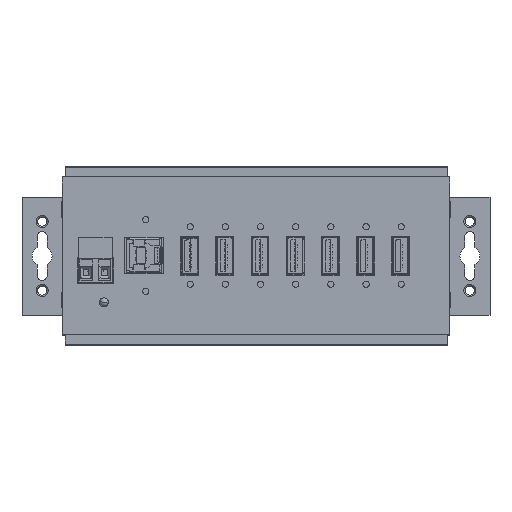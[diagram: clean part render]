
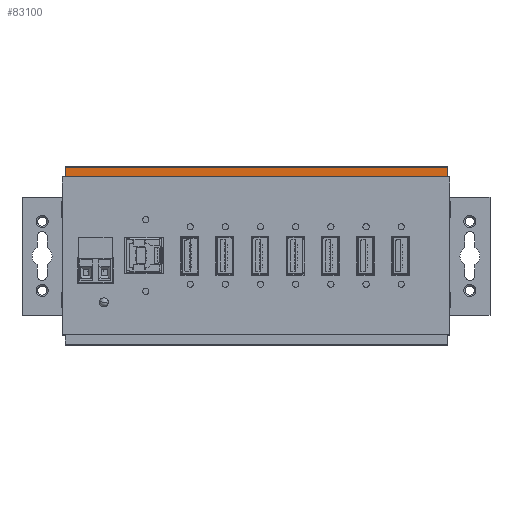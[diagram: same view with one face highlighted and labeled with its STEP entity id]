
A CAD part, top view. The second image highlights one B-rep face of the part: STEP entity #83100.
In plain terms, the highlighted planar face has unit normal (0, 0, 1).
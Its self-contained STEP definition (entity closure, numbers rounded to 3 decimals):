
#17877 = PLANE('',#17878);
#17878 = AXIS2_PLACEMENT_3D('',#17879,#17880,#17881);
#17879 = CARTESIAN_POINT('',(0.,54.,0.));
#17880 = DIRECTION('',(0.,1.,0.));
#17881 = DIRECTION('',(0.,0.,1.));
#44596 = VERTEX_POINT('',#44597);
#44597 = CARTESIAN_POINT('',(148.1,54.,30.));
#44611 = PLANE('',#44612);
#44612 = AXIS2_PLACEMENT_3D('',#44613,#44614,#44615);
#44613 = CARTESIAN_POINT('',(148.1,54.,30.));
#44614 = DIRECTION('',(1.,0.,0.));
#44615 = DIRECTION('',(0.,1.,0.));
#44623 = EDGE_CURVE('',#44624,#44596,#44626,.T.);
#44624 = VERTEX_POINT('',#44625);
#44625 = CARTESIAN_POINT('',(15.,54.,30.));
#44626 = SURFACE_CURVE('',#44627,(#44631,#44638),.PCURVE_S1.);
#44627 = LINE('',#44628,#44629);
#44628 = CARTESIAN_POINT('',(15.,54.,30.));
#44629 = VECTOR('',#44630,1.);
#44630 = DIRECTION('',(1.,0.,0.));
#44631 = PCURVE('',#17877,#44632);
#44632 = DEFINITIONAL_REPRESENTATION('',(#44633),#44637);
#44633 = LINE('',#44634,#44635);
#44634 = CARTESIAN_POINT('',(30.,15.));
#44635 = VECTOR('',#44636,1.);
#44636 = DIRECTION('',(0.,1.));
#44637 = ( GEOMETRIC_REPRESENTATION_CONTEXT(2) 
PARAMETRIC_REPRESENTATION_CONTEXT() REPRESENTATION_CONTEXT('2D SPACE',''
  ) );
#44638 = PCURVE('',#44639,#44644);
#44639 = PLANE('',#44640);
#44640 = AXIS2_PLACEMENT_3D('',#44641,#44642,#44643);
#44641 = CARTESIAN_POINT('',(15.,54.,30.));
#44642 = DIRECTION('',(0.,0.,-1.));
#44643 = DIRECTION('',(0.,1.,0.));
#44644 = DEFINITIONAL_REPRESENTATION('',(#44645),#44649);
#44645 = LINE('',#44646,#44647);
#44646 = CARTESIAN_POINT('',(0.,0.));
#44647 = VECTOR('',#44648,1.);
#44648 = DIRECTION('',(0.,1.));
#44649 = ( GEOMETRIC_REPRESENTATION_CONTEXT(2) 
PARAMETRIC_REPRESENTATION_CONTEXT() REPRESENTATION_CONTEXT('2D SPACE',''
  ) );
#44665 = PLANE('',#44666);
#44666 = AXIS2_PLACEMENT_3D('',#44667,#44668,#44669);
#44667 = CARTESIAN_POINT('',(15.,54.,30.));
#44668 = DIRECTION('',(1.,0.,0.));
#44669 = DIRECTION('',(0.,0.,-1.));
#82214 = EDGE_CURVE('',#44624,#82215,#82217,.T.);
#82215 = VERTEX_POINT('',#82216);
#82216 = CARTESIAN_POINT('',(15.,57.2,30.));
#82217 = SURFACE_CURVE('',#82218,(#82222,#82229),.PCURVE_S1.);
#82218 = LINE('',#82219,#82220);
#82219 = CARTESIAN_POINT('',(15.,54.,30.));
#82220 = VECTOR('',#82221,1.);
#82221 = DIRECTION('',(0.,1.,0.));
#82222 = PCURVE('',#44665,#82223);
#82223 = DEFINITIONAL_REPRESENTATION('',(#82224),#82228);
#82224 = LINE('',#82225,#82226);
#82225 = CARTESIAN_POINT('',(0.,0.));
#82226 = VECTOR('',#82227,1.);
#82227 = DIRECTION('',(0.,1.));
#82228 = ( GEOMETRIC_REPRESENTATION_CONTEXT(2) 
PARAMETRIC_REPRESENTATION_CONTEXT() REPRESENTATION_CONTEXT('2D SPACE',''
  ) );
#82229 = PCURVE('',#44639,#82230);
#82230 = DEFINITIONAL_REPRESENTATION('',(#82231),#82235);
#82231 = LINE('',#82232,#82233);
#82232 = CARTESIAN_POINT('',(0.,0.));
#82233 = VECTOR('',#82234,1.);
#82234 = DIRECTION('',(1.,0.));
#82235 = ( GEOMETRIC_REPRESENTATION_CONTEXT(2) 
PARAMETRIC_REPRESENTATION_CONTEXT() REPRESENTATION_CONTEXT('2D SPACE',''
  ) );
#83089 = PLANE('',#83090);
#83090 = AXIS2_PLACEMENT_3D('',#83091,#83092,#83093);
#83091 = CARTESIAN_POINT('',(15.,57.2,30.));
#83092 = DIRECTION('',(0.,0.956,
    0.292));
#83093 = DIRECTION('',(0.,0.292,
    -0.956));
#83100 = ADVANCED_FACE('',(#83101),#44639,.F.);
#83101 = FACE_BOUND('',#83102,.F.);
#83102 = EDGE_LOOP('',(#83103,#83104,#83105,#83128));
#83103 = ORIENTED_EDGE('',*,*,#44623,.F.);
#83104 = ORIENTED_EDGE('',*,*,#82214,.T.);
#83105 = ORIENTED_EDGE('',*,*,#83106,.T.);
#83106 = EDGE_CURVE('',#82215,#83107,#83109,.T.);
#83107 = VERTEX_POINT('',#83108);
#83108 = CARTESIAN_POINT('',(148.1,57.2,30.));
#83109 = SURFACE_CURVE('',#83110,(#83114,#83121),.PCURVE_S1.);
#83110 = LINE('',#83111,#83112);
#83111 = CARTESIAN_POINT('',(15.,57.2,30.));
#83112 = VECTOR('',#83113,1.);
#83113 = DIRECTION('',(1.,0.,0.));
#83114 = PCURVE('',#44639,#83115);
#83115 = DEFINITIONAL_REPRESENTATION('',(#83116),#83120);
#83116 = LINE('',#83117,#83118);
#83117 = CARTESIAN_POINT('',(3.2,0.));
#83118 = VECTOR('',#83119,1.);
#83119 = DIRECTION('',(0.,1.));
#83120 = ( GEOMETRIC_REPRESENTATION_CONTEXT(2) 
PARAMETRIC_REPRESENTATION_CONTEXT() REPRESENTATION_CONTEXT('2D SPACE',''
  ) );
#83121 = PCURVE('',#83089,#83122);
#83122 = DEFINITIONAL_REPRESENTATION('',(#83123),#83127);
#83123 = LINE('',#83124,#83125);
#83124 = CARTESIAN_POINT('',(0.,0.));
#83125 = VECTOR('',#83126,1.);
#83126 = DIRECTION('',(0.,-1.));
#83127 = ( GEOMETRIC_REPRESENTATION_CONTEXT(2) 
PARAMETRIC_REPRESENTATION_CONTEXT() REPRESENTATION_CONTEXT('2D SPACE',''
  ) );
#83128 = ORIENTED_EDGE('',*,*,#83129,.F.);
#83129 = EDGE_CURVE('',#44596,#83107,#83130,.T.);
#83130 = SURFACE_CURVE('',#83131,(#83135,#83142),.PCURVE_S1.);
#83131 = LINE('',#83132,#83133);
#83132 = CARTESIAN_POINT('',(148.1,54.,30.));
#83133 = VECTOR('',#83134,1.);
#83134 = DIRECTION('',(0.,1.,0.));
#83135 = PCURVE('',#44639,#83136);
#83136 = DEFINITIONAL_REPRESENTATION('',(#83137),#83141);
#83137 = LINE('',#83138,#83139);
#83138 = CARTESIAN_POINT('',(0.,133.1));
#83139 = VECTOR('',#83140,1.);
#83140 = DIRECTION('',(1.,0.));
#83141 = ( GEOMETRIC_REPRESENTATION_CONTEXT(2) 
PARAMETRIC_REPRESENTATION_CONTEXT() REPRESENTATION_CONTEXT('2D SPACE',''
  ) );
#83142 = PCURVE('',#44611,#83143);
#83143 = DEFINITIONAL_REPRESENTATION('',(#83144),#83148);
#83144 = LINE('',#83145,#83146);
#83145 = CARTESIAN_POINT('',(0.,0.));
#83146 = VECTOR('',#83147,1.);
#83147 = DIRECTION('',(1.,0.));
#83148 = ( GEOMETRIC_REPRESENTATION_CONTEXT(2) 
PARAMETRIC_REPRESENTATION_CONTEXT() REPRESENTATION_CONTEXT('2D SPACE',''
  ) );
